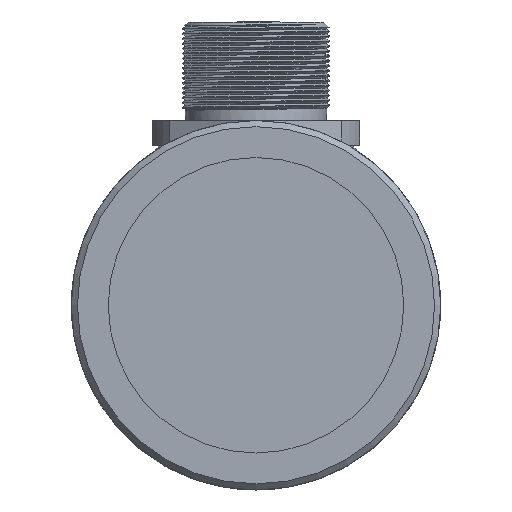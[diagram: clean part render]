
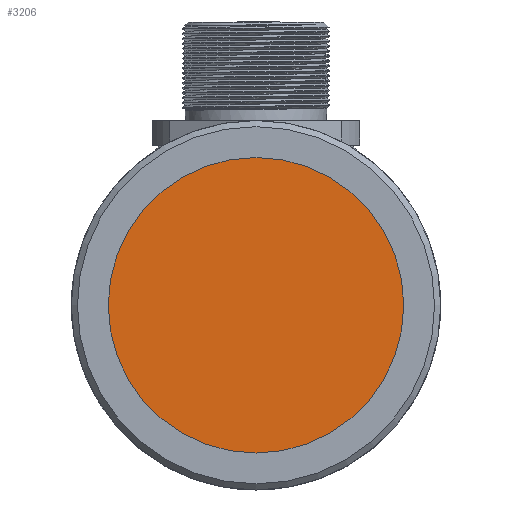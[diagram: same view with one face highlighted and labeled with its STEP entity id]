
A CAD part, left-side view. The second image highlights one B-rep face of the part: STEP entity #3206.
In plain terms, the highlighted planar face has unit normal (-1, 0, 0).
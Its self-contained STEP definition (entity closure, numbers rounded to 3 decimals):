
#845=CIRCLE('',#3410,12.);
#940=VERTEX_POINT('',#4171);
#1481=EDGE_CURVE('',#940,#940,#845,.T.);
#1903=ORIENTED_EDGE('',*,*,#1481,.T.);
#2723=EDGE_LOOP('',(#1903));
#2966=FACE_BOUND('',#2723,.T.);
#3206=ADVANCED_FACE('',(#2966),#18082,.T.);
#3410=AXIS2_PLACEMENT_3D('',#4170,#3650,#3651);
#3412=AXIS2_PLACEMENT_3D('',#4174,#3654,$);
#3650=DIRECTION('',(-1.,0.,0.));
#3651=DIRECTION('',(0.,0.,12.));
#3654=DIRECTION('',(-1.,0.,0.));
#4170=CARTESIAN_POINT('',(1.,0.,0.));
#4171=CARTESIAN_POINT('',(1.,0.,12.));
#4174=CARTESIAN_POINT('',(1.,0.,0.));
#18082=PLANE('',#3412);
